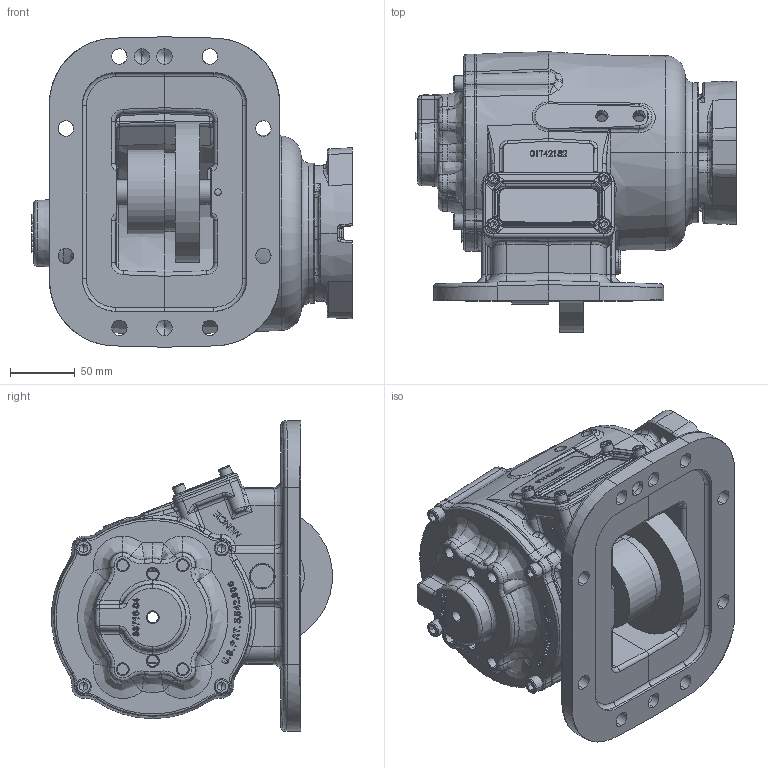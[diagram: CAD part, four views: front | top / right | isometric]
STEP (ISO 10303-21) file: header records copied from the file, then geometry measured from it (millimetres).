
FILE_DESCRIPTION (( 'STEP AP203' ), '1' );
FILE_NAME ('CS8S-XXXXX-X2TX.STEP', '2012-05-31T15:53:04', ( '' ), ( '' ), 'SwSTEP 2.0', 'SolidWorks 2012', '' );
FILE_SCHEMA (( 'CONFIG_CONTROL_DESIGN' ));
Products named in the file (3): CS8S-XXXXX-X2TX; 14T39141; CS8S-XXXXX-X2XX
Assembly tree (2 placements, depth 2):
  CS8S-XXXXX-X2TX
    CS8S-XXXXX-X2XX
    14T39141
Bounding box: 247.66 x 216.55 x 239.61 mm (x, y, z)
Volume: 1848309.6 mm3; surface area: 440358.8 mm2
Topology: 5 solids, 5 shells, 2166 faces, 5501 edges, 3398 vertices
Faces by surface type: bspline 810, plane 627, cylinder 430, cone 215, torus 78, sphere 6
Entity records: 120739 total; most frequent: CARTESIAN_POINT 74303, ORIENTED_EDGE 10844, DIRECTION 7594, EDGE_CURVE 5422, VERTEX_POINT 3398, AXIS2_PLACEMENT_3D 2661, EDGE_LOOP 2370, LINE 2272
